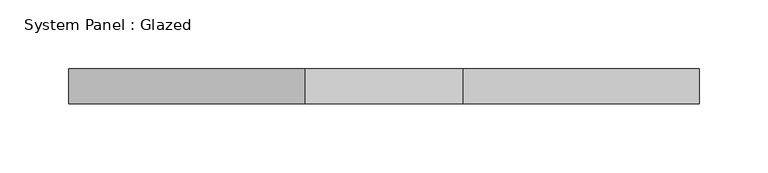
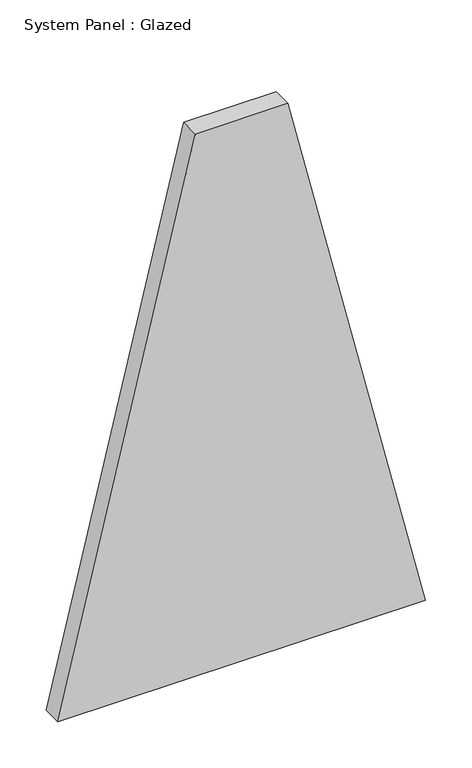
"""IFC4 building model written with IfcOpenShell, lengths in millimetres: plate geometry, System Panel : Glazed."""

from ifc_helpers import new_model, si_unit, frame, origin, place, context, project, spatial, polyline, outline, extrude, source, transform, mapped, element, save


def system_panel_glazed_4e9ddf93(model_context):
    return source(origin(), model_context, "Body", "SweptSolid", [
        extrude(outline(polyline([(0.0, -229.2461229), (0.0, 229.2461229), (715.6332353, 57.8098099), (715.6332353, -57.8098099), (0.0, -229.2461229)])), frame((0.0, 19.05, 0.0), z_axis=(0.0, 1.0, 0.0), x_axis=(0.0, 0.0, 1.0)), (0.0, 0.0, 1.0), 25.4),
    ])


if __name__ == "__main__":
    model = new_model("IFC4")
    model_context = context("Model", 3, world=origin())
    ifc_project = project(units=[si_unit("LENGTHUNIT", "METRE", prefix="MILLI")], contexts=[model_context])
    site = spatial("IfcSite", under=ifc_project)
    building = spatial("IfcBuilding", under=site)
    placement = place(None, origin())
    system_panel_glazed_shape = system_panel_glazed_4e9ddf93(model_context)
    element("IfcPlate", 1, ObjectType="System Panel : Glazed", at=placement, inside=building, context=model_context, shape_type="MappedRepresentation", body=[
        mapped(system_panel_glazed_shape, transform((0.0, 0.0, 0.0), x_axis=(1.0, 0.0, 0.0), y_axis=(0.0, 1.0, 0.0), z_axis=(0.0, 0.0, 1.0))),
    ])
    save(model, "model.ifc")
